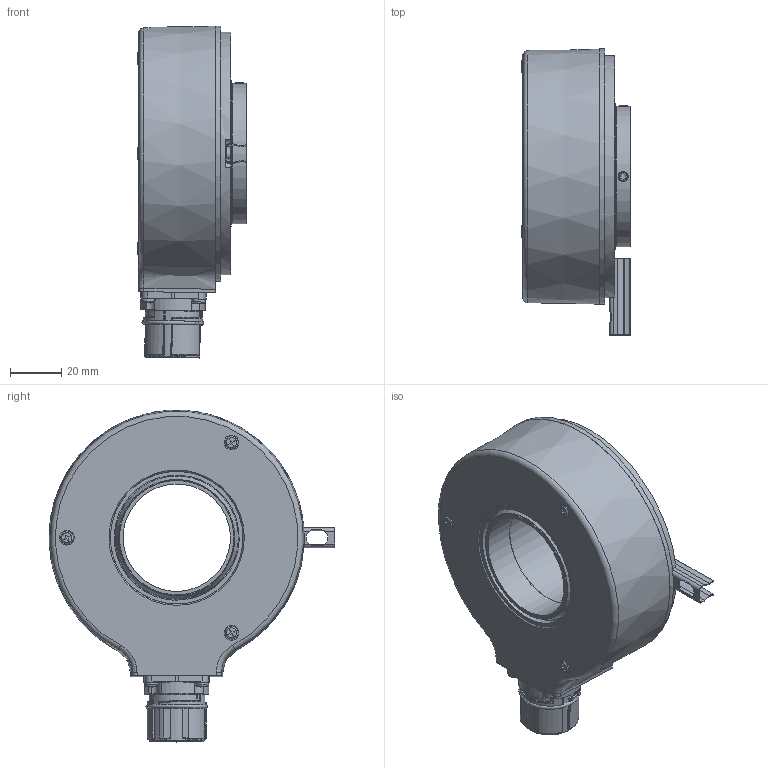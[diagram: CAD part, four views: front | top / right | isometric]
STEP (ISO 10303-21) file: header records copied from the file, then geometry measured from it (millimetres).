
FILE_DESCRIPTION (( 'STEP AP203' ), '1' );
FILE_NAME ('8.A020.31X2.XXXX.STEP', '2013-06-27T14:57:06', ( 'Hodot' ), ( '' ), 'SwSTEP 2.0', 'SolidWorks 2012', '' );
FILE_SCHEMA (( 'CONFIG_CONTROL_DESIGN' ));
Length unit declared in the file: millimetre
Products named in the file (1): 8.A020.31X2.XXXX
Bounding box: 42.8 x 112 x 130.01 mm (x, y, z)
Volume: 149864.4 mm3; surface area: 99523.4 mm2
Topology: 34 solids, 34 shells, 920 faces, 2085 edges, 1314 vertices
Faces by surface type: plane 353, cylinder 330, cone 93, sphere 60, torus 53, bspline 31
Full cylindrical faces by diameter (mm): 0.5 x12, 0.6 x12, 1.1 x12, 1.2 x12, 1.4 x12, 2 x36, 2.05 x5, 2.2 x4, 2.5 x39, 2.6 x7, 3 x7, 3.04 x3, 3.3 x5, 4 x2, 5 x4, 5.8 x3, 10.5 x1, 16.8 x1, 17 x1, 20 x1, 21 x1, 21.6 x2, 24.5 x1, 42 x2, 42.3 x1, 42.8 x1, 43.5 x3, 44.8 x1, 45 x3, 48 x1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
Entity records: 26030 total; most frequent: CARTESIAN_POINT 7352, DIRECTION 4002, ORIENTED_EDGE 3108, AXIS2_PLACEMENT_3D 1727, EDGE_CURVE 1554, EDGE_LOOP 1529, FACE_OUTER_BOUND 1197, VERTEX_POINT 1185
